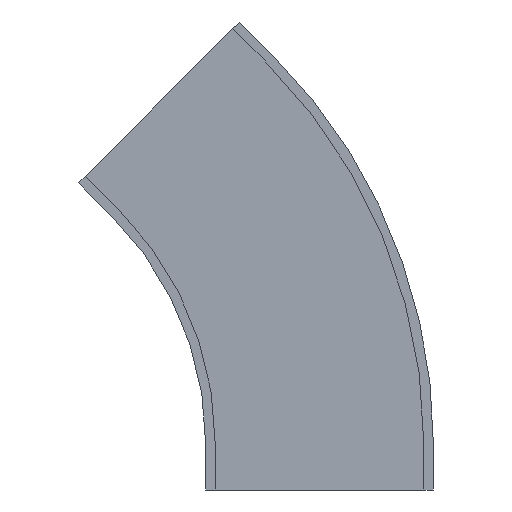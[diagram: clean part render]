
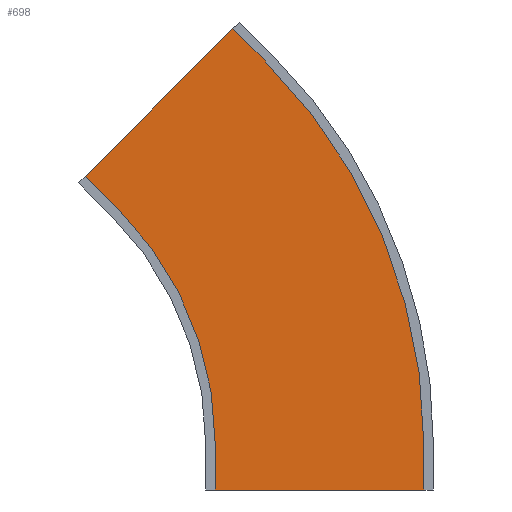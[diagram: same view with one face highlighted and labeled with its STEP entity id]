
A CAD part, front view. The second image highlights one B-rep face of the part: STEP entity #698.
In plain terms, the highlighted planar face has unit normal (0, -1, 0).
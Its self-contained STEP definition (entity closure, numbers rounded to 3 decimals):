
#338 = DIRECTION ( 'NONE',  ( 0.707, 0., -0.707 ) ) ;
#340 = CARTESIAN_POINT ( 'NONE',  ( 0., -68., 0. ) ) ;
#341 = DIRECTION ( 'NONE',  ( 0., 1., 0. ) ) ;
#342 = DIRECTION ( 'NONE',  ( -1., 0., 0. ) ) ;
#345 = CARTESIAN_POINT ( 'NONE',  ( -70.711, -68., 70.711 ) ) ;
#346 = CARTESIAN_POINT ( 'NONE',  ( 0., -68., -100. ) ) ;
#347 = CARTESIAN_POINT ( 'NONE',  ( 769.756, -68., 911.178 ) ) ;
#348 = CARTESIAN_POINT ( 'NONE',  ( 0., -68., 0. ) ) ;
#349 = DIRECTION ( 'NONE',  ( 0., 1., 0. ) ) ;
#350 = DIRECTION ( 'NONE',  ( -1., 0., 0. ) ) ;
#351 = DIRECTION ( 'NONE',  ( 0.707, 0., 0.707 ) ) ;
#352 = CARTESIAN_POINT ( 'NONE',  ( 446.467, -68., 587.889 ) ) ;
#353 = DIRECTION ( 'NONE',  ( 0.707, 0., -0.707 ) ) ;
#354 = CARTESIAN_POINT ( 'NONE',  ( 731.4, -68., -100. ) ) ;
#358 = DIRECTION ( 'NONE',  ( -1., 0., 0. ) ) ;
#359 = DIRECTION ( 'NONE',  ( 0., 0., 1. ) ) ;
#360 = DIRECTION ( 'NONE',  ( 0., 0., 1. ) ) ;
#361 = CARTESIAN_POINT ( 'NONE',  ( 1188.6, -68., -100. ) ) ;
#509 = AXIS2_PLACEMENT_3D ( 'NONE', #340, #341, #342 ) ;
#510 = AXIS2_PLACEMENT_3D ( 'NONE', #348, #349, #350 ) ;
#556 = AXIS2_PLACEMENT_3D ( 'NONE', #1751, #1755, #1756 ) ;
#637 = EDGE_CURVE ( 'NONE', #940, #943, #1483, .T. ) ;
#640 = EDGE_CURVE ( 'NONE', #946, #933, #1488, .T. ) ;
#641 = EDGE_CURVE ( 'NONE', #945, #946, #1485, .T. ) ;
#642 = EDGE_CURVE ( 'NONE', #947, #945, #1490, .T. ) ;
#643 = EDGE_CURVE ( 'NONE', #947, #940, #1493, .T. ) ;
#644 = EDGE_CURVE ( 'NONE', #944, #943, #1495, .T. ) ;
#645 = EDGE_CURVE ( 'NONE', #950, #944, #1491, .T. ) ;
#646 = EDGE_CURVE ( 'NONE', #950, #933, #1499, .T. ) ;
#698 = ADVANCED_FACE ( 'NONE', ( #1561 ), #1753, .F. ) ;
#746 = ORIENTED_EDGE ( 'NONE', *, *, #640, .F. ) ;
#747 = ORIENTED_EDGE ( 'NONE', *, *, #641, .F. ) ;
#748 = ORIENTED_EDGE ( 'NONE', *, *, #642, .F. ) ;
#749 = ORIENTED_EDGE ( 'NONE', *, *, #643, .T. ) ;
#750 = ORIENTED_EDGE ( 'NONE', *, *, #637, .T. ) ;
#751 = ORIENTED_EDGE ( 'NONE', *, *, #644, .F. ) ;
#752 = ORIENTED_EDGE ( 'NONE', *, *, #645, .F. ) ;
#753 = ORIENTED_EDGE ( 'NONE', *, *, #646, .T. ) ;
#859 = EDGE_LOOP ( 'NONE', ( #746, #747, #748, #749, #750, #751, #752, #753 ) ) ;
#933 = VERTEX_POINT ( 'NONE', #1829 ) ;
#940 = VERTEX_POINT ( 'NONE', #1836 ) ;
#943 = VERTEX_POINT ( 'NONE', #1839 ) ;
#944 = VERTEX_POINT ( 'NONE', #1840 ) ;
#945 = VERTEX_POINT ( 'NONE', #1841 ) ;
#946 = VERTEX_POINT ( 'NONE', #1842 ) ;
#947 = VERTEX_POINT ( 'NONE', #1843 ) ;
#950 = VERTEX_POINT ( 'NONE', #1846 ) ;
#1483 = CIRCLE ( 'NONE', #509, 731.4 ) ;
#1485 = LINE ( 'NONE', #347, #1492 ) ;
#1488 = CIRCLE ( 'NONE', #510, 1188.6 ) ;
#1490 = LINE ( 'NONE', #345, #1494 ) ;
#1491 = LINE ( 'NONE', #346, #1500 ) ;
#1492 = VECTOR ( 'NONE', #338, 1000. ) ;
#1493 = LINE ( 'NONE', #352, #1496 ) ;
#1494 = VECTOR ( 'NONE', #351, 1000. ) ;
#1495 = LINE ( 'NONE', #354, #1498 ) ;
#1496 = VECTOR ( 'NONE', #353, 1000. ) ;
#1498 = VECTOR ( 'NONE', #359, 1000. ) ;
#1499 = LINE ( 'NONE', #361, #1502 ) ;
#1500 = VECTOR ( 'NONE', #358, 1000. ) ;
#1502 = VECTOR ( 'NONE', #360, 1000. ) ;
#1561 = FACE_OUTER_BOUND ( 'NONE', #859, .T. ) ;
#1751 = CARTESIAN_POINT ( 'NONE',  ( 517.178, -68., 517.178 ) ) ;
#1753 = PLANE ( 'NONE',  #556 ) ;
#1755 = DIRECTION ( 'NONE',  ( 0., 1., 0. ) ) ;
#1756 = DIRECTION ( 'NONE',  ( -1., 0., 0. ) ) ;
#1829 = CARTESIAN_POINT ( 'NONE',  ( 1188.6, -68., 0. ) ) ;
#1836 = CARTESIAN_POINT ( 'NONE',  ( 517.178, -68., 517.178 ) ) ;
#1839 = CARTESIAN_POINT ( 'NONE',  ( 731.4, -68., 0. ) ) ;
#1840 = CARTESIAN_POINT ( 'NONE',  ( 731.4, -68., -100. ) ) ;
#1841 = CARTESIAN_POINT ( 'NONE',  ( 769.756, -68., 911.178 ) ) ;
#1842 = CARTESIAN_POINT ( 'NONE',  ( 840.467, -68., 840.467 ) ) ;
#1843 = CARTESIAN_POINT ( 'NONE',  ( 446.467, -68., 587.889 ) ) ;
#1846 = CARTESIAN_POINT ( 'NONE',  ( 1188.6, -68., -100. ) ) ;
